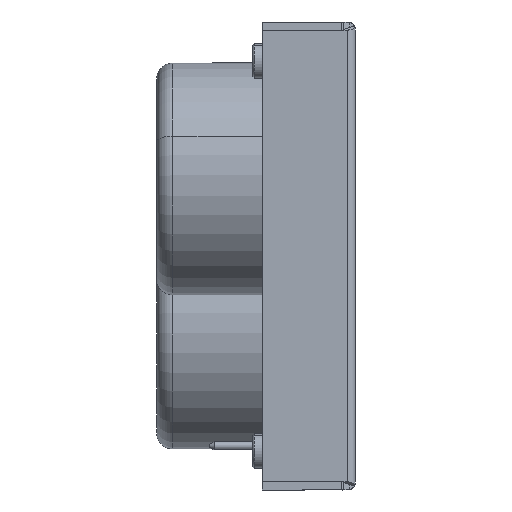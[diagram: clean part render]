
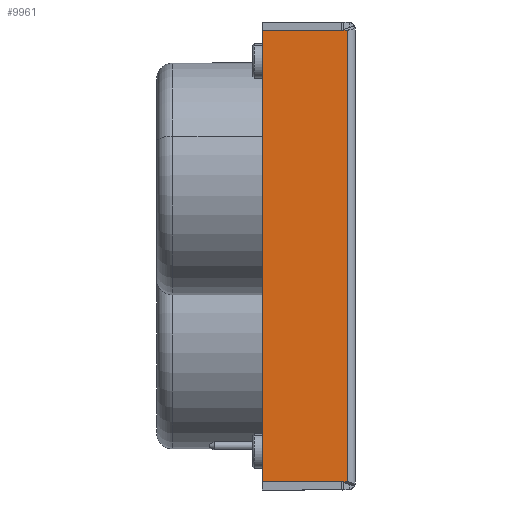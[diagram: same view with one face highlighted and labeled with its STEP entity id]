
A CAD part, left-side view. The second image highlights one B-rep face of the part: STEP entity #9961.
In plain terms, the highlighted planar face has unit normal (-1, 0, 0).
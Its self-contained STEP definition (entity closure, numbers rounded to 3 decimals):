
#429 = VECTOR ( 'NONE', #4544, 1000. ) ;
#485 = CARTESIAN_POINT ( 'NONE',  ( -30.5, 10.5, -27.95 ) ) ;
#541 = EDGE_CURVE ( 'NONE', #7988, #2565, #7995, .T. ) ;
#800 = VERTEX_POINT ( 'NONE', #9246 ) ;
#978 = FACE_OUTER_BOUND ( 'NONE', #10728, .T. ) ;
#1067 = ORIENTED_EDGE ( 'NONE', *, *, #2761, .T. ) ;
#1132 = ORIENTED_EDGE ( 'NONE', *, *, #541, .T. ) ;
#1337 = CARTESIAN_POINT ( 'NONE',  ( -30.5, 10.5, 27.95 ) ) ;
#1428 = VERTEX_POINT ( 'NONE', #1997 ) ;
#1842 = CARTESIAN_POINT ( 'NONE',  ( -30.5, 10.5, -27.95 ) ) ;
#1997 = CARTESIAN_POINT ( 'NONE',  ( -30.5, 0., 27.95 ) ) ;
#2027 = CARTESIAN_POINT ( 'NONE',  ( -30.5, 10.5, 27.95 ) ) ;
#2344 = ORIENTED_EDGE ( 'NONE', *, *, #9050, .T. ) ;
#2565 = VERTEX_POINT ( 'NONE', #485 ) ;
#2613 = VECTOR ( 'NONE', #4769, 1000. ) ;
#2639 = ORIENTED_EDGE ( 'NONE', *, *, #6793, .F. ) ;
#2761 = EDGE_CURVE ( 'NONE', #2565, #800, #8675, .T. ) ;
#3143 = DIRECTION ( 'NONE',  ( 0., 1., 0. ) ) ;
#3239 = LINE ( 'NONE', #1842, #11097 ) ;
#3695 = CARTESIAN_POINT ( 'NONE',  ( -30.5, 10.5, 27.95 ) ) ;
#3717 = DIRECTION ( 'NONE',  ( 0., -1., 0. ) ) ;
#3754 = CARTESIAN_POINT ( 'NONE',  ( -30.5, 10.5, 27.95 ) ) ;
#3993 = CARTESIAN_POINT ( 'NONE',  ( -30.5, 10.5, 27.95 ) ) ;
#4544 = DIRECTION ( 'NONE',  ( 0., 0., -1. ) ) ;
#4769 = DIRECTION ( 'NONE',  ( 0., -1., 0. ) ) ;
#5158 = VECTOR ( 'NONE', #5637, 1000. ) ;
#5637 = DIRECTION ( 'NONE',  ( 0., -1., 0. ) ) ;
#5772 = VERTEX_POINT ( 'NONE', #8039 ) ;
#6457 = CARTESIAN_POINT ( 'NONE',  ( -30.5, 0., -27.95 ) ) ;
#6760 = VERTEX_POINT ( 'NONE', #6457 ) ;
#6793 = EDGE_CURVE ( 'NONE', #7988, #5772, #8206, .T. ) ;
#7034 = CARTESIAN_POINT ( 'NONE',  ( -30.5, 0., 27.95 ) ) ;
#7811 = EDGE_CURVE ( 'NONE', #1428, #6760, #9304, .T. ) ;
#7819 = VECTOR ( 'NONE', #11425, 1000. ) ;
#7988 = VERTEX_POINT ( 'NONE', #3754 ) ;
#7995 = LINE ( 'NONE', #3695, #429 ) ;
#8039 = CARTESIAN_POINT ( 'NONE',  ( -30.5, 0.717, 27.95 ) ) ;
#8206 = LINE ( 'NONE', #3993, #2613 ) ;
#8425 = DIRECTION ( 'NONE',  ( 1., 0., 0. ) ) ;
#8502 = PLANE ( 'NONE',  #10061 ) ;
#8675 = LINE ( 'NONE', #10578, #7819 ) ;
#9050 = EDGE_CURVE ( 'NONE', #800, #6760, #3239, .T. ) ;
#9246 = CARTESIAN_POINT ( 'NONE',  ( -30.5, 0.717, -27.95 ) ) ;
#9304 = LINE ( 'NONE', #7034, #11415 ) ;
#9961 = ADVANCED_FACE ( 'NONE', ( #978 ), #8502, .F. ) ;
#10061 = AXIS2_PLACEMENT_3D ( 'NONE', #1337, #8425, #3143 ) ;
#10417 = EDGE_CURVE ( 'NONE', #5772, #1428, #11488, .T. ) ;
#10578 = CARTESIAN_POINT ( 'NONE',  ( -30.5, 10.5, -27.95 ) ) ;
#10700 = DIRECTION ( 'NONE',  ( 0., 0., -1. ) ) ;
#10728 = EDGE_LOOP ( 'NONE', ( #1067, #2344, #11328, #11256, #2639, #1132 ) ) ;
#11097 = VECTOR ( 'NONE', #3717, 1000. ) ;
#11256 = ORIENTED_EDGE ( 'NONE', *, *, #10417, .F. ) ;
#11328 = ORIENTED_EDGE ( 'NONE', *, *, #7811, .F. ) ;
#11415 = VECTOR ( 'NONE', #10700, 1000. ) ;
#11425 = DIRECTION ( 'NONE',  ( 0., -1., 0. ) ) ;
#11488 = LINE ( 'NONE', #2027, #5158 ) ;
